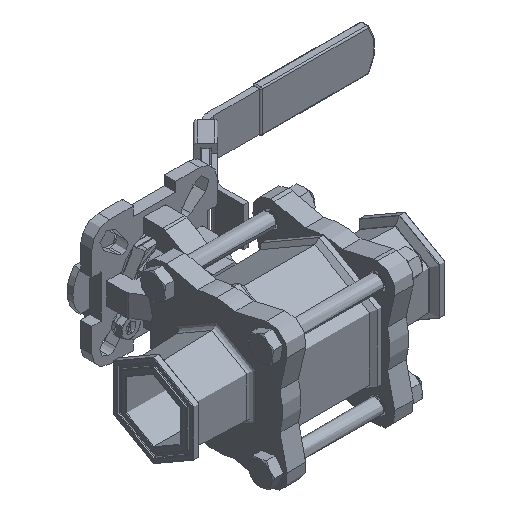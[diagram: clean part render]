
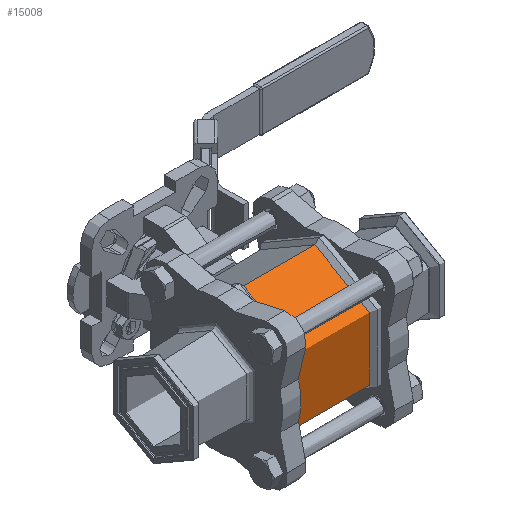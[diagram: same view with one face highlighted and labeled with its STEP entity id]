
A CAD part, isometric view. The second image highlights one B-rep face of the part: STEP entity #15008.
In plain terms, the highlighted cylindrical face has radius 34.29 mm (diameter 68.58 mm), a partial arc.
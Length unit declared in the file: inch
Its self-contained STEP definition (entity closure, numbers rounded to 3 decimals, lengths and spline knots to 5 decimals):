
#467 = CARTESIAN_POINT ( 'NONE',  ( -2.66966, 0., 0. ) ) ;
#764 = LINE ( 'NONE', #23916, #38766 ) ;
#3124 = DIRECTION ( 'NONE',  ( -1., 0., 0. ) ) ;
#5305 = VERTEX_POINT ( 'NONE', #14011 ) ;
#5536 = DIRECTION ( 'NONE',  ( -1., 0., 0. ) ) ;
#5765 = ORIENTED_EDGE ( 'NONE', *, *, #34878, .T. ) ;
#6736 = VECTOR ( 'NONE', #24036, 39.37008 ) ;
#8494 = AXIS2_PLACEMENT_3D ( 'NONE', #33917, #15432, #37017 ) ;
#9999 = ORIENTED_EDGE ( 'NONE', *, *, #10958, .F. ) ;
#10868 = CYLINDRICAL_SURFACE ( 'NONE', #37982, 1.35 ) ;
#10958 = EDGE_CURVE ( 'NONE', #18341, #5305, #39449, .T. ) ;
#13966 = ORIENTED_EDGE ( 'NONE', *, *, #18636, .F. ) ;
#14011 = CARTESIAN_POINT ( 'NONE',  ( -0.765, 0., -1.35 ) ) ;
#14165 = CIRCLE ( 'NONE', #15689, 1.35 ) ;
#14252 = CARTESIAN_POINT ( 'NONE',  ( 0.765, 0., -1.35 ) ) ;
#14661 = EDGE_LOOP ( 'NONE', ( #9999, #5765, #22539, #13966 ) ) ;
#15008 = ADVANCED_FACE ( 'NONE', ( #35408 ), #10868, .T. ) ;
#15432 = DIRECTION ( 'NONE',  ( -1., 0., 0. ) ) ;
#15689 = AXIS2_PLACEMENT_3D ( 'NONE', #21482, #3124, #24590 ) ;
#15810 = CARTESIAN_POINT ( 'NONE',  ( -0.765, 0., 1.35 ) ) ;
#18341 = VERTEX_POINT ( 'NONE', #14252 ) ;
#18636 = EDGE_CURVE ( 'NONE', #5305, #37657, #21515, .T. ) ;
#18813 = DIRECTION ( 'NONE',  ( 0., 0., 1. ) ) ;
#19715 = VERTEX_POINT ( 'NONE', #35050 ) ;
#20938 = CARTESIAN_POINT ( 'NONE',  ( -2.66966, 0., -1.35 ) ) ;
#21482 = CARTESIAN_POINT ( 'NONE',  ( 0.765, 0., 0. ) ) ;
#21515 = CIRCLE ( 'NONE', #8494, 1.35 ) ;
#22539 = ORIENTED_EDGE ( 'NONE', *, *, #34705, .T. ) ;
#23916 = CARTESIAN_POINT ( 'NONE',  ( -2.66966, 0., 1.35 ) ) ;
#24036 = DIRECTION ( 'NONE',  ( -1., 0., 0. ) ) ;
#24590 = DIRECTION ( 'NONE',  ( 0., 0., 1. ) ) ;
#33917 = CARTESIAN_POINT ( 'NONE',  ( -0.765, 0., 0. ) ) ;
#34705 = EDGE_CURVE ( 'NONE', #19715, #37657, #764, .T. ) ;
#34878 = EDGE_CURVE ( 'NONE', #18341, #19715, #14165, .T. ) ;
#35050 = CARTESIAN_POINT ( 'NONE',  ( 0.765, 0., 1.35 ) ) ;
#35408 = FACE_OUTER_BOUND ( 'NONE', #14661, .T. ) ;
#37017 = DIRECTION ( 'NONE',  ( 0., 0., 1. ) ) ;
#37309 = DIRECTION ( 'NONE',  ( -1., 0., 0. ) ) ;
#37657 = VERTEX_POINT ( 'NONE', #15810 ) ;
#37982 = AXIS2_PLACEMENT_3D ( 'NONE', #467, #37309, #18813 ) ;
#38766 = VECTOR ( 'NONE', #5536, 39.37008 ) ;
#39449 = LINE ( 'NONE', #20938, #6736 ) ;
